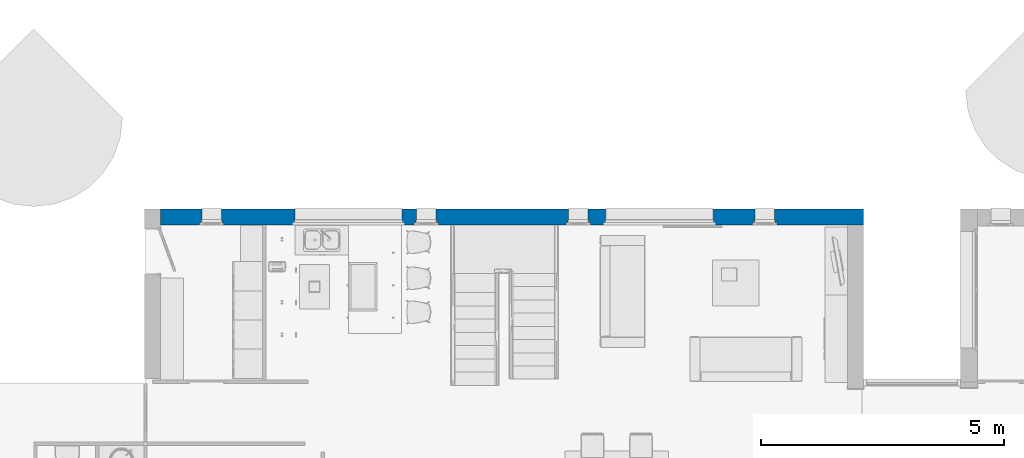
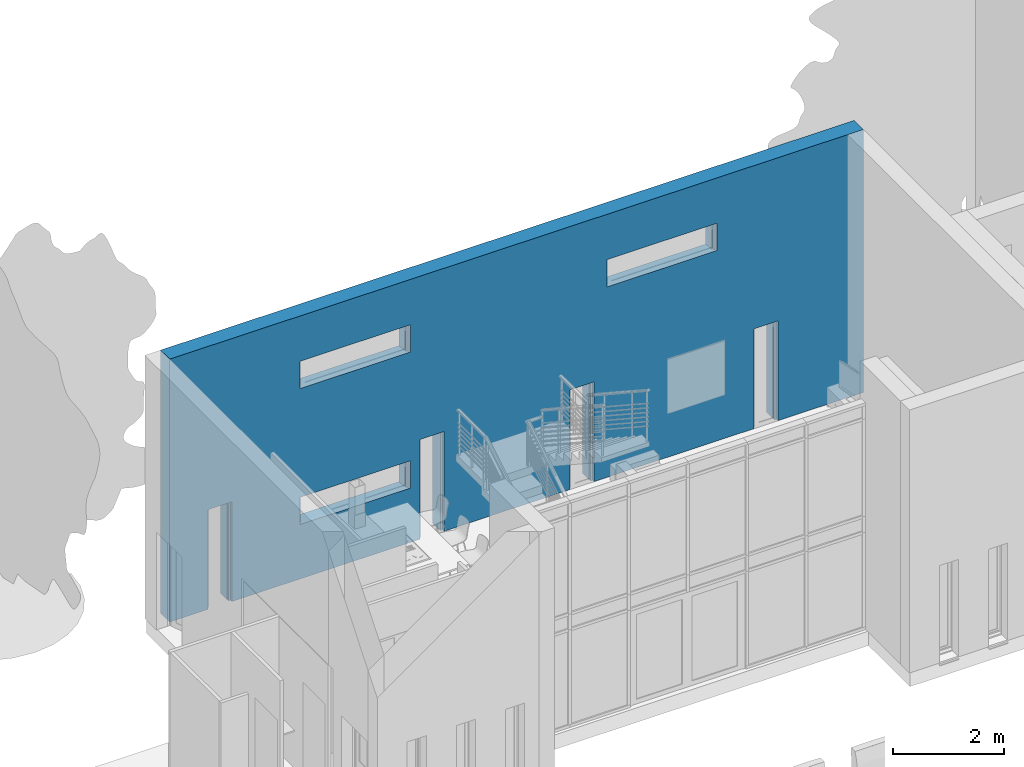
# One storey, part 11 of 40: 1 wall, 7 openings.
"""IFC2X3 building model written with IfcOpenShell, lengths in metres."""

from ifc_helpers import new_model, entity, si_unit, converted_unit, derived_unit, direction, frame, frame_2d, origin, place, context, subcontext, project, spatial, rectangle, extrude, faceted_brep, material, layer, layer_set, layer_usage, type_object, element, save


model = new_model("IFC2X3")

# Units and contexts
model_context = context("Model", 3, precision=1e-05, world=origin(), true_north=direction((6.12303176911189e-17, 1.0)))
body_context = subcontext(model_context, "Body", "Model", "MODEL_VIEW")
ifc_project = project(units=[si_unit("LENGTHUNIT", "METRE"), si_unit("AREAUNIT", "SQUARE_METRE"), si_unit("VOLUMEUNIT", "CUBIC_METRE"), converted_unit("PLANEANGLEUNIT", "DEGREE", entity("IfcRatioMeasure", 0.0174532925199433), si_unit("PLANEANGLEUNIT", "RADIAN"), dimensions=[0, 0, 0, 0, 0, 0, 0]), si_unit("MASSUNIT", "GRAM", prefix="KILO"), derived_unit("MASSDENSITYUNIT", [(si_unit("MASSUNIT", "GRAM", prefix="KILO"), 1), (si_unit("LENGTHUNIT", "METRE"), -3)]), si_unit("TIMEUNIT", "SECOND"), si_unit("FREQUENCYUNIT", "HERTZ"), si_unit("THERMODYNAMICTEMPERATUREUNIT", "DEGREE_CELSIUS"), derived_unit("THERMALTRANSMITTANCEUNIT", [(si_unit("MASSUNIT", "GRAM", prefix="KILO"), 1), (si_unit("THERMODYNAMICTEMPERATUREUNIT", "KELVIN"), -1), (si_unit("TIMEUNIT", "SECOND"), -3)]), derived_unit("VOLUMETRICFLOWRATEUNIT", [(si_unit("LENGTHUNIT", "METRE"), 3), (si_unit("TIMEUNIT", "SECOND"), -1)]), si_unit("ELECTRICCURRENTUNIT", "AMPERE"), si_unit("ELECTRICVOLTAGEUNIT", "VOLT"), si_unit("POWERUNIT", "WATT"), si_unit("FORCEUNIT", "NEWTON", prefix="KILO"), si_unit("ILLUMINANCEUNIT", "LUX"), si_unit("LUMINOUSFLUXUNIT", "LUMEN"), si_unit("LUMINOUSINTENSITYUNIT", "CANDELA"), derived_unit("USERDEFINED", [(si_unit("MASSUNIT", "GRAM", prefix="KILO"), -1), (si_unit("LENGTHUNIT", "METRE"), -2), (si_unit("TIMEUNIT", "SECOND"), 3), (si_unit("LUMINOUSFLUXUNIT", "LUMEN"), 1)]), derived_unit("LINEARVELOCITYUNIT", [(si_unit("LENGTHUNIT", "METRE"), 1), (si_unit("TIMEUNIT", "SECOND"), -1)]), si_unit("PRESSUREUNIT", "PASCAL"), derived_unit("USERDEFINED", [(si_unit("LENGTHUNIT", "METRE"), -2), (si_unit("MASSUNIT", "GRAM", prefix="KILO"), 1), (si_unit("TIMEUNIT", "SECOND"), -2)])], contexts=[model_context])

# Site, building, storey
site_placement = place(None, origin())
site = spatial("IfcSite", under=ifc_project, at=site_placement, Name="Surface", CompositionType="ELEMENT")
building_placement = place(site_placement, origin())
building = spatial("IfcBuilding", under=site, at=building_placement, CompositionType="ELEMENT")
storey_placement = place(building_placement, origin())
storey = spatial("IfcBuildingStorey", under=building, at=storey_placement, Name="RDC", CompositionType="ELEMENT", Elevation=-1.0941605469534e-13)

# Wall, openings
ifc_material_1 = material(Name="Maçonnerie - Enduit")
ifc_layer_1 = layer(ifc_material_1, 0.02)
ifc_material_2 = material(Name="Blocs béton manufacturés")
ifc_layer_2 = layer(ifc_material_2, 0.2)
ifc_material_3 = material(Name="vide")
ifc_layer_3 = layer(ifc_material_3, 0.01)
ifc_material_4 = material(Name="Maçonnerie - Isolant")
ifc_layer_4 = layer(ifc_material_4, 0.09)
ifc_material_5 = material(Name="Plâtre")
ifc_layer_5 = layer(ifc_material_5, 0.01)
ifc_layer_set = layer_set([ifc_layer_1, ifc_layer_2, ifc_layer_3, ifc_layer_4, ifc_layer_5], Name="Mur de base:M7 Ext. Crépis 2 + BBMC 20 + Isolant 11")
ifc_layer_usage = layer_usage(ifc_layer_set, "AXIS2", "NEGATIVE", 0.165)
wall_type = type_object("IfcWallType", Name="Mur de base:M7 Ext. Crépis 2 + BBMC 20 + Isolant 11", PredefinedType="STANDARD", material=ifc_layer_set)
wall_placement = place(storey_placement, frame((-4.67248888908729, 7.7120106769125, 0.0)))
wall = element("IfcWallStandardCase", 1, at=wall_placement, inside=storey, type_object=wall_type, material=ifc_layer_usage, Name="Mur de base:M7 Ext. Crépis 2 + BBMC 20 + Isolant 11", ObjectType="Mur de base:M7 Ext. Crépis 2 + BBMC 20 + Isolant 11", context=body_context, shape_type="SweptSolid", body=[
    extrude(rectangle(XDim=14.47, YDim=0.330000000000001, at=frame_2d((7.235, 0.0), x_axis=(-1.0, 0.0))), origin(), (0.0, 0.0, 1.0), 5.80000000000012),
])
opening_1_placement = place(wall_placement, frame((12.19, -0.500000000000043, -0.0764859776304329)))
element("IfcOpeningElement", 2, at=opening_1_placement, cuts=wall, Name="Mur de base:M7 Ext. Crépis 2 + BBMC 20 + Isolant 11", ObjectType="Opening", context=body_context, shape_type="Brep", body=[
    faceted_brep([(0.0499999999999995, 0.414999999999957, 0.0764859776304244), (0.0499999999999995, 0.435000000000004, 0.0764859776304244), (0.0499999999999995, 0.435000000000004, 2.22648597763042), (0.0500000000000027, 1.0, 2.22648597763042), (0.0500000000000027, 1.0, 0.0), (0.0499999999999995, 0.414999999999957, 0.0614859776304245), (0.449999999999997, 0.0, 0.0764859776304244), (0.45, 0.335000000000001, 0.0764859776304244), (0.45, 0.335000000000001, 2.22648597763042), (0.449999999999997, 0.0, 2.22648597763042), (0.0499999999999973, 0.0, 0.0764859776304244), (0.0499999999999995, 0.335000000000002, 0.0764859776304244), (0.0, 0.335000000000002, 0.0764859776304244), (0.0, 0.385000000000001, 0.0764859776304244), (0.0399999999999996, 0.385000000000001, 0.0764859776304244), (0.0399999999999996, 0.435000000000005, 0.0764859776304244), (0.45, 0.414999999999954, 0.0764859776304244), (0.45, 0.435000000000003, 0.0764859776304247), (0.459999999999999, 0.435000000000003, 0.0764859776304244), (0.459999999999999, 0.385, 0.0764859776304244), (0.499999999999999, 0.385, 0.0764859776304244), (0.499999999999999, 0.335000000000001, 0.0764859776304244), (0.0499999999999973, 0.0, 2.22648597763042), (0.45, 0.435000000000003, 2.22648597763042), (0.450000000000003, 1.0, 2.22648597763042), (0.450000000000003, 1.0, 0.0), (0.45, 0.414999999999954, 0.0614859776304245), (0.0, 0.335000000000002, 2.27648597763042), (0.0, 0.385000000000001, 2.27648597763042), (0.499999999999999, 0.384999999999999, 2.27648597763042), (0.459999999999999, 0.384999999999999, 2.23648597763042), (0.0400000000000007, 0.385000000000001, 2.23648597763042), (0.0399999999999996, 0.435000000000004, 2.23648597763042), (0.459999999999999, 0.435000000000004, 2.23648597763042), (0.0499999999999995, 0.335000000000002, 2.22648597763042), (0.499999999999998, 0.335, 2.27648597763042)], [[[0, 1, 2, 3, 4, 5]], [[6, 7, 8, 9]], [[10, 11, 12, 13, 14, 15, 1, 0, 16, 17, 18, 19, 20, 21, 7, 6]], [[10, 6, 9, 22]], [[3, 2, 23, 24]], [[3, 24, 25, 4]], [[4, 25, 26, 5]], [[5, 26, 16, 0]], [[12, 27, 28, 13]], [[13, 28, 29, 20, 19, 30, 31, 14]], [[14, 31, 32, 15]], [[15, 32, 33, 18, 17, 23, 2, 1]], [[11, 34, 8, 7, 21, 35, 27, 12]], [[27, 35, 29, 28]], [[30, 33, 32, 31]], [[29, 35, 21, 20]], [[19, 18, 33, 30]], [[9, 8, 34, 22]], [[24, 23, 17, 16, 26, 25]], [[22, 34, 11, 10]]]),
])
opening_2_placement = place(wall_placement, frame((0.800000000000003, -0.500000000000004, -0.0764859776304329)))
element("IfcOpeningElement", 3, at=opening_2_placement, cuts=wall, Name="Mur de base:M7 Ext. Crépis 2 + BBMC 20 + Isolant 11", ObjectType="Opening", context=body_context, shape_type="Brep", body=[
    faceted_brep([(0.0499999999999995, 0.414999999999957, 0.0764859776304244), (0.0499999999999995, 0.435000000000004, 0.0764859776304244), (0.0499999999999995, 0.435000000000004, 2.22648597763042), (0.0500000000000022, 1.0, 2.22648597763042), (0.0500000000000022, 1.0, 0.0), (0.0499999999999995, 0.414999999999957, 0.0614859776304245), (0.449999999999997, 0.0, 0.0764859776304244), (0.449999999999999, 0.335000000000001, 0.0764859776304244), (0.449999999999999, 0.335000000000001, 2.22648597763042), (0.449999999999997, 0.0, 2.22648597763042), (0.0499999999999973, 0.0, 0.0764859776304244), (0.0499999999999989, 0.335000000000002, 0.0764859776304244), (0.0, 0.335000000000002, 0.0764859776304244), (0.0, 0.385000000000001, 0.0764859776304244), (0.0399999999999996, 0.385000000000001, 0.0764859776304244), (0.0399999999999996, 0.435000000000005, 0.0764859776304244), (0.45, 0.414999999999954, 0.0764859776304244), (0.45, 0.435000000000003, 0.0764859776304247), (0.459999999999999, 0.435000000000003, 0.0764859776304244), (0.459999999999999, 0.385, 0.0764859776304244), (0.499999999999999, 0.385, 0.0764859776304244), (0.499999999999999, 0.335000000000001, 0.0764859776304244), (0.0499999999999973, 0.0, 2.22648597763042), (0.45, 0.435000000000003, 2.22648597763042), (0.450000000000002, 1.0, 2.22648597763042), (0.450000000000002, 1.0, 0.0), (0.45, 0.414999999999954, 0.0614859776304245), (0.0, 0.335000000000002, 2.27648597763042), (0.0, 0.385000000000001, 2.27648597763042), (0.499999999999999, 0.384999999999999, 2.27648597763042), (0.459999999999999, 0.384999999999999, 2.23648597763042), (0.0399999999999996, 0.385000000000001, 2.23648597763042), (0.0399999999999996, 0.435000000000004, 2.23648597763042), (0.46, 0.435000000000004, 2.23648597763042), (0.0499999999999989, 0.335000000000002, 2.22648597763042), (0.499999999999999, 0.335, 2.27648597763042)], [[[0, 1, 2, 3, 4, 5]], [[6, 7, 8, 9]], [[10, 11, 12, 13, 14, 15, 1, 0, 16, 17, 18, 19, 20, 21, 7, 6]], [[10, 6, 9, 22]], [[3, 2, 23, 24]], [[3, 24, 25, 4]], [[4, 25, 26, 5]], [[5, 26, 16, 0]], [[12, 27, 28, 13]], [[13, 28, 29, 20, 19, 30, 31, 14]], [[14, 31, 32, 15]], [[15, 32, 33, 18, 17, 23, 2, 1]], [[11, 34, 8, 7, 21, 35, 27, 12]], [[27, 35, 29, 28]], [[30, 33, 32, 31]], [[29, 35, 21, 20]], [[19, 18, 33, 30]], [[9, 8, 34, 22]], [[24, 23, 17, 16, 26, 25]], [[22, 34, 11, 10]]]),
])
opening_3_placement = place(wall_placement, frame((5.22, -0.50000000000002, -0.0764859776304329)))
element("IfcOpeningElement", 4, at=opening_3_placement, cuts=wall, Name="Mur de base:M7 Ext. Crépis 2 + BBMC 20 + Isolant 11", ObjectType="Opening", context=body_context, shape_type="Brep", body=[
    faceted_brep([(0.0499999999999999, 0.414999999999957, 0.0764859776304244), (0.05, 0.435000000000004, 0.0764859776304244), (0.05, 0.435000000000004, 2.22648597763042), (0.0500000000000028, 1.0, 2.22648597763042), (0.0500000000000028, 1.0, 0.0), (0.0499999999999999, 0.414999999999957, 0.0614859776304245), (0.449999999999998, 0.0, 0.0764859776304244), (0.45, 0.335000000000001, 0.0764859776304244), (0.45, 0.335000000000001, 2.22648597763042), (0.449999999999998, 0.0, 2.22648597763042), (0.0499999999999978, 0.0, 0.0764859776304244), (0.0499999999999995, 0.335000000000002, 0.0764859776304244), (0.0, 0.335000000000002, 0.0764859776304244), (0.0, 0.385000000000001, 0.0764859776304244), (0.04, 0.385000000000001, 0.0764859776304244), (0.0400000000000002, 0.435000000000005, 0.0764859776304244), (0.45, 0.414999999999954, 0.0764859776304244), (0.45, 0.435000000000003, 0.0764859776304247), (0.46, 0.435000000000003, 0.0764859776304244), (0.46, 0.385, 0.0764859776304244), (0.5, 0.385, 0.0764859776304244), (0.499999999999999, 0.335000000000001, 0.0764859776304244), (0.0499999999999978, 0.0, 2.22648597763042), (0.45, 0.435000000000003, 2.22648597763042), (0.450000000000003, 1.0, 2.22648597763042), (0.450000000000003, 1.0, 0.0), (0.45, 0.414999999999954, 0.0614859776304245), (0.0, 0.335000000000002, 2.27648597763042), (0.0, 0.385000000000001, 2.27648597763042), (0.499999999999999, 0.384999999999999, 2.27648597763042), (0.46, 0.384999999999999, 2.23648597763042), (0.0400000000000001, 0.385000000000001, 2.23648597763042), (0.0399999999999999, 0.435000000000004, 2.23648597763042), (0.46, 0.435000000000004, 2.23648597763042), (0.0499999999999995, 0.335000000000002, 2.22648597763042), (0.499999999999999, 0.335, 2.27648597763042)], [[[0, 1, 2, 3, 4, 5]], [[6, 7, 8, 9]], [[10, 11, 12, 13, 14, 15, 1, 0, 16, 17, 18, 19, 20, 21, 7, 6]], [[10, 6, 9, 22]], [[3, 2, 23, 24]], [[3, 24, 25, 4]], [[4, 25, 26, 5]], [[5, 26, 16, 0]], [[12, 27, 28, 13]], [[13, 28, 29, 20, 19, 30, 31, 14]], [[14, 31, 32, 15]], [[15, 32, 33, 18, 17, 23, 2, 1]], [[11, 34, 8, 7, 21, 35, 27, 12]], [[27, 35, 29, 28]], [[30, 33, 32, 31]], [[29, 35, 21, 20]], [[19, 18, 33, 30]], [[9, 8, 34, 22]], [[24, 23, 17, 16, 26, 25]], [[22, 34, 11, 10]]]),
])
opening_4_placement = place(wall_placement, frame((8.35000000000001, -0.500000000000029, -0.0764859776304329)))
element("IfcOpeningElement", 5, at=opening_4_placement, cuts=wall, Name="Mur de base:M7 Ext. Crépis 2 + BBMC 20 + Isolant 11", ObjectType="Opening", context=body_context, shape_type="Brep", body=[
    faceted_brep([(0.0499999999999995, 0.414999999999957, 0.0764859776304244), (0.0499999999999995, 0.435000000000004, 0.0764859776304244), (0.0499999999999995, 0.435000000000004, 2.22648597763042), (0.0500000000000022, 1.0, 2.22648597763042), (0.0500000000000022, 1.0, 0.0), (0.0499999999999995, 0.414999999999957, 0.0614859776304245), (0.449999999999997, 0.0, 0.0764859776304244), (0.449999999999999, 0.335000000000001, 0.0764859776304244), (0.449999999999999, 0.335000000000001, 2.22648597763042), (0.449999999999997, 0.0, 2.22648597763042), (0.0499999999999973, 0.0, 0.0764859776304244), (0.0499999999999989, 0.335000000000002, 0.0764859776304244), (0.0, 0.335000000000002, 0.0764859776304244), (0.0, 0.385000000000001, 0.0764859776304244), (0.0399999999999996, 0.385000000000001, 0.0764859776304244), (0.0399999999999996, 0.435000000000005, 0.0764859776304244), (0.45, 0.414999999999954, 0.0764859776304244), (0.45, 0.435000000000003, 0.0764859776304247), (0.459999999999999, 0.435000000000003, 0.0764859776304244), (0.459999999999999, 0.385, 0.0764859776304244), (0.499999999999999, 0.385, 0.0764859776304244), (0.499999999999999, 0.335000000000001, 0.0764859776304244), (0.0499999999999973, 0.0, 2.22648597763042), (0.45, 0.435000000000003, 2.22648597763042), (0.450000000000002, 1.0, 2.22648597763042), (0.450000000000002, 1.0, 0.0), (0.45, 0.414999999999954, 0.0614859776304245), (0.0, 0.335000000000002, 2.27648597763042), (0.0, 0.385000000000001, 2.27648597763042), (0.499999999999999, 0.384999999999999, 2.27648597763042), (0.459999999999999, 0.384999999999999, 2.23648597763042), (0.0399999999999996, 0.385000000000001, 2.23648597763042), (0.0399999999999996, 0.435000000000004, 2.23648597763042), (0.46, 0.435000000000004, 2.23648597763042), (0.0499999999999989, 0.335000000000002, 2.22648597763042), (0.499999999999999, 0.335, 2.27648597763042)], [[[0, 1, 2, 3, 4, 5]], [[6, 7, 8, 9]], [[10, 11, 12, 13, 14, 15, 1, 0, 16, 17, 18, 19, 20, 21, 7, 6]], [[10, 6, 9, 22]], [[3, 2, 23, 24]], [[3, 24, 25, 4]], [[4, 25, 26, 5]], [[5, 26, 16, 0]], [[12, 27, 28, 13]], [[13, 28, 29, 20, 19, 30, 31, 14]], [[14, 31, 32, 15]], [[15, 32, 33, 18, 17, 23, 2, 1]], [[11, 34, 8, 7, 21, 35, 27, 12]], [[27, 35, 29, 28]], [[30, 33, 32, 31]], [[29, 35, 21, 20]], [[19, 18, 33, 30]], [[9, 8, 34, 22]], [[24, 23, 17, 16, 26, 25]], [[22, 34, 11, 10]]]),
])
opening_5_placement = place(wall_placement, frame((2.72, -0.500000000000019, 1.12351402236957)))
element("IfcOpeningElement", 6, at=opening_5_placement, cuts=wall, Name="Mur de base:M7 Ext. Crépis 2 + BBMC 20 + Isolant 11", ObjectType="Opening", context=body_context, shape_type="Brep", body=[
    faceted_brep([(0.0500000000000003, 0.414999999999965, 0.0764859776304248), (0.0500000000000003, 0.435000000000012, 0.0764859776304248), (0.0500000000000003, 0.435000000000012, 0.626485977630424), (0.050000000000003, 1.0, 0.626485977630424), (0.050000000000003, 1.0, 0.0), (0.0500000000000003, 0.414999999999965, 0.0614859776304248), (2.25, 0.0, 0.0764859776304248), (2.25, 0.335000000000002, 0.0764859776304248), (2.25, 0.335000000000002, 0.626485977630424), (2.25, 0.0, 0.626485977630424), (0.0499999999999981, 0.0, 0.0764859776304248), (0.0499999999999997, 0.335000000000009, 0.0764859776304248), (0.0, 0.335000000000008, 0.0764859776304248), (0.0, 0.385000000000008, 0.0764859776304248), (0.0400000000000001, 0.385000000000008, 0.0764859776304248), (0.0400000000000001, 0.43500000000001, 0.0764859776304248), (2.25, 0.414999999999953, 0.0764859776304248), (2.25, 0.435000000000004, 0.0764859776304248), (2.26, 0.435000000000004, 0.0764859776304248), (2.26, 0.385, 0.0764859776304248), (2.3, 0.385, 0.0764859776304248), (2.3, 0.335000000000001, 0.0764859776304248), (0.0499999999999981, 0.0, 0.626485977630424), (2.25, 0.435000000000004, 0.626485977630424), (2.25, 1.0, 0.626485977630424), (2.25, 1.0, 0.0), (2.25, 0.414999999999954, 0.0614859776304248), (0.0, 0.335000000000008, 0.676485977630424), (0.0, 0.385000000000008, 0.676485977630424), (2.3, 0.385, 0.676485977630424), (2.26, 0.385000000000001, 0.636485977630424), (0.0399999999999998, 0.385000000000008, 0.636485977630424), (0.0400000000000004, 0.43500000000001, 0.636485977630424), (2.26, 0.435000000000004, 0.636485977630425), (0.0499999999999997, 0.335000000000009, 0.626485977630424), (2.3, 0.335000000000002, 0.676485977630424)], [[[0, 1, 2, 3, 4, 5]], [[6, 7, 8, 9]], [[10, 11, 12, 13, 14, 15, 1, 0, 16, 17, 18, 19, 20, 21, 7, 6]], [[10, 6, 9, 22]], [[3, 2, 23, 24]], [[3, 24, 25, 4]], [[4, 25, 26, 5]], [[5, 26, 16, 0]], [[12, 27, 28, 13]], [[13, 28, 29, 20, 19, 30, 31, 14]], [[14, 31, 32, 15]], [[15, 32, 33, 18, 17, 23, 2, 1]], [[11, 34, 8, 7, 21, 35, 27, 12]], [[27, 35, 29, 28]], [[30, 33, 32, 31]], [[29, 35, 21, 20]], [[19, 18, 33, 30]], [[9, 8, 34, 22]], [[24, 23, 17, 16, 26, 25]], [[22, 34, 11, 10]]]),
])
opening_6_placement = place(wall_placement, frame((2.72, -0.500000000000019, 4.12351402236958)))
element("IfcOpeningElement", 7, at=opening_6_placement, cuts=wall, Name="Mur de base:M7 Ext. Crépis 2 + BBMC 20 + Isolant 11", ObjectType="Opening", context=body_context, shape_type="Brep", body=[
    faceted_brep([(0.0500000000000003, 0.414999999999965, 0.0764859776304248), (0.0500000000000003, 0.435000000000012, 0.0764859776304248), (0.0500000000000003, 0.435000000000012, 0.626485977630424), (0.050000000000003, 1.0, 0.626485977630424), (0.050000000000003, 1.0, 0.0), (0.0500000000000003, 0.414999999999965, 0.061485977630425), (2.25, 0.0, 0.0764859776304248), (2.25, 0.335000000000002, 0.0764859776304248), (2.25, 0.335000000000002, 0.626485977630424), (2.25, 0.0, 0.626485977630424), (0.0499999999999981, 0.0, 0.0764859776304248), (0.0499999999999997, 0.335000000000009, 0.0764859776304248), (0.0, 0.335000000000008, 0.0764859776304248), (0.0, 0.385000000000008, 0.0764859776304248), (0.0400000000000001, 0.385000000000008, 0.0764859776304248), (0.0400000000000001, 0.43500000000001, 0.0764859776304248), (2.25, 0.414999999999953, 0.0764859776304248), (2.25, 0.435000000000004, 0.0764859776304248), (2.26, 0.435000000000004, 0.0764859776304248), (2.26, 0.385, 0.0764859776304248), (2.3, 0.385, 0.0764859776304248), (2.3, 0.335000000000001, 0.0764859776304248), (0.0499999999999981, 0.0, 0.626485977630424), (2.25, 0.435000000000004, 0.626485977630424), (2.25, 1.0, 0.626485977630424), (2.25, 1.0, 0.0), (2.25, 0.414999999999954, 0.061485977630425), (0.0, 0.335000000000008, 0.676485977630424), (0.0, 0.385000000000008, 0.676485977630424), (2.3, 0.385, 0.676485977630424), (2.26, 0.385000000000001, 0.636485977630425), (0.0399999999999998, 0.385000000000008, 0.636485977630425), (0.0400000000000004, 0.43500000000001, 0.636485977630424), (2.26, 0.435000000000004, 0.636485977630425), (0.0499999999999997, 0.335000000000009, 0.626485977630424), (2.3, 0.335000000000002, 0.676485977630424)], [[[0, 1, 2, 3, 4, 5]], [[6, 7, 8, 9]], [[10, 11, 12, 13, 14, 15, 1, 0, 16, 17, 18, 19, 20, 21, 7, 6]], [[10, 6, 9, 22]], [[3, 2, 23, 24]], [[3, 24, 25, 4]], [[4, 25, 26, 5]], [[5, 26, 16, 0]], [[12, 27, 28, 13]], [[13, 28, 29, 20, 19, 30, 31, 14]], [[14, 31, 32, 15]], [[15, 32, 33, 18, 17, 23, 2, 1]], [[11, 34, 8, 7, 21, 35, 27, 12]], [[27, 35, 29, 28]], [[30, 33, 32, 31]], [[29, 35, 21, 20]], [[19, 18, 33, 30]], [[9, 8, 34, 22]], [[24, 23, 17, 16, 26, 25]], [[22, 34, 11, 10]]]),
])
opening_7_placement = place(wall_placement, frame((9.12000000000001, -0.500000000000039, 4.12351402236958)))
element("IfcOpeningElement", 8, at=opening_7_placement, cuts=wall, Name="Mur de base:M7 Ext. Crépis 2 + BBMC 20 + Isolant 11", ObjectType="Opening", context=body_context, shape_type="Brep", body=[
    faceted_brep([(0.05, 0.414999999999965, 0.0764859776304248), (0.05, 0.435000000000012, 0.0764859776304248), (0.05, 0.435000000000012, 0.626485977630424), (0.0500000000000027, 1.0, 0.626485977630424), (0.0500000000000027, 1.0, 0.0), (0.05, 0.414999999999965, 0.061485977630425), (2.25, 0.0, 0.0764859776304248), (2.25, 0.335000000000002, 0.0764859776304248), (2.25, 0.335000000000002, 0.626485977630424), (2.25, 0.0, 0.626485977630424), (0.0499999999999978, 0.0, 0.0764859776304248), (0.0499999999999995, 0.335000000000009, 0.0764859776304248), (0.0, 0.335000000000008, 0.0764859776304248), (0.0, 0.385000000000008, 0.0764859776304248), (0.0399999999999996, 0.385000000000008, 0.0764859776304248), (0.0399999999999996, 0.43500000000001, 0.0764859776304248), (2.25, 0.414999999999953, 0.0764859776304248), (2.25, 0.435000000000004, 0.0764859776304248), (2.26, 0.435000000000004, 0.0764859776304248), (2.26, 0.385, 0.0764859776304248), (2.3, 0.385, 0.0764859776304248), (2.3, 0.335000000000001, 0.0764859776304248), (0.0499999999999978, 0.0, 0.626485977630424), (2.25, 0.435000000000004, 0.626485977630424), (2.25, 1.0, 0.626485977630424), (2.25, 1.0, 0.0), (2.25, 0.414999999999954, 0.061485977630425), (0.0, 0.335000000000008, 0.676485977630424), (0.0, 0.385000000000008, 0.676485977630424), (2.3, 0.385, 0.676485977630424), (2.26, 0.385000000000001, 0.636485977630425), (0.039999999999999, 0.385000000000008, 0.636485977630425), (0.0399999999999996, 0.43500000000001, 0.636485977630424), (2.26, 0.435000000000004, 0.636485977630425), (0.0499999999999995, 0.335000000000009, 0.626485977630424), (2.3, 0.335000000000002, 0.676485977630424)], [[[0, 1, 2, 3, 4, 5]], [[6, 7, 8, 9]], [[10, 11, 12, 13, 14, 15, 1, 0, 16, 17, 18, 19, 20, 21, 7, 6]], [[10, 6, 9, 22]], [[3, 2, 23, 24]], [[3, 24, 25, 4]], [[4, 25, 26, 5]], [[5, 26, 16, 0]], [[12, 27, 28, 13]], [[13, 28, 29, 20, 19, 30, 31, 14]], [[14, 31, 32, 15]], [[15, 32, 33, 18, 17, 23, 2, 1]], [[11, 34, 8, 7, 21, 35, 27, 12]], [[27, 35, 29, 28]], [[30, 33, 32, 31]], [[29, 35, 21, 20]], [[19, 18, 33, 30]], [[9, 8, 34, 22]], [[24, 23, 17, 16, 26, 25]], [[22, 34, 11, 10]]]),
])

save(model, "model.ifc")
